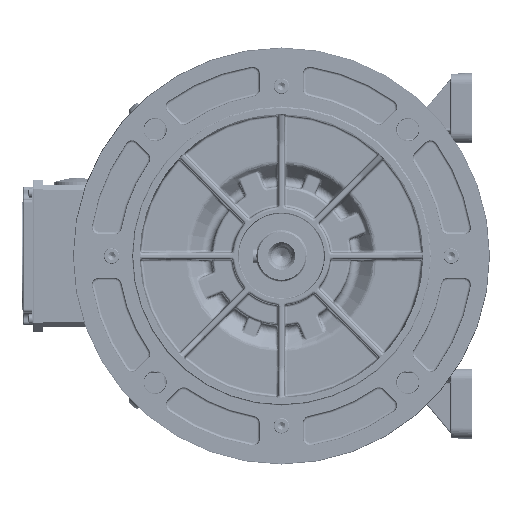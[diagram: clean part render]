
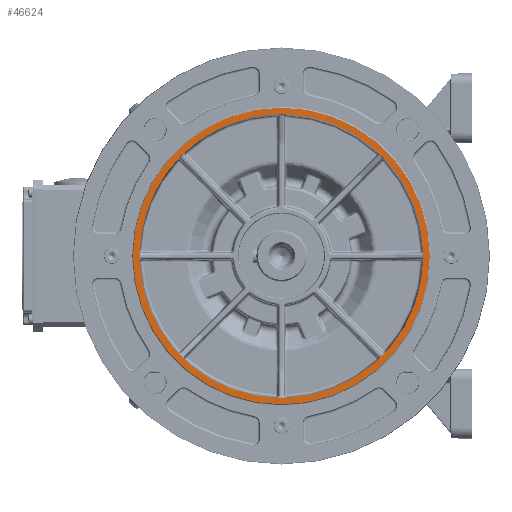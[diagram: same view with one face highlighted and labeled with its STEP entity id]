
A CAD part, left-side view. The second image highlights one B-rep face of the part: STEP entity #46624.
In plain terms, the highlighted planar face has unit normal (-1, 0, 0).
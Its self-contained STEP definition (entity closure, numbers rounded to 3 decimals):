
#46624=ADVANCED_FACE('',(#82818,#82819),#54829,.T.);
#54829=PLANE('',#256810);
#82818=FACE_BOUND('',#93283,.T.);
#82819=FACE_BOUND('',#93284,.T.);
#93283=EDGE_LOOP('',(#142183));
#93284=EDGE_LOOP('',(#142184));
#142183=ORIENTED_EDGE('',*,*,#212491,.T.);
#142184=ORIENTED_EDGE('',*,*,#213463,.F.);
#183296=VERTEX_POINT('',#443507);
#183868=VERTEX_POINT('',#450239);
#212491=EDGE_CURVE('',#183296,#183296,#234595,.T.);
#213463=EDGE_CURVE('',#183868,#183868,#234983,.T.);
#234595=CIRCLE('',#256093,124.5);
#234983=CIRCLE('',#256809,119.08);
#256093=AXIS2_PLACEMENT_3D('',#443506,#307055,#307056);
#256809=AXIS2_PLACEMENT_3D('',#450238,#308703,#308704);
#256810=AXIS2_PLACEMENT_3D('',#450240,#308705,#308706);
#307055=DIRECTION('',(-1.,0.,0.));
#307056=DIRECTION('',(0.,0.,1.));
#308703=DIRECTION('',(-1.,0.,0.));
#308704=DIRECTION('',(0.,0.,1.));
#308705=DIRECTION('',(-1.,0.,0.));
#308706=DIRECTION('',(0.,0.,1.));
#443506=CARTESIAN_POINT('',(-40.,117.,0.));
#443507=CARTESIAN_POINT('',(-40.,117.,124.5));
#450238=CARTESIAN_POINT('',(-40.,117.,0.));
#450239=CARTESIAN_POINT('',(-40.,117.,119.08));
#450240=CARTESIAN_POINT('',(-40.,-8.,0.));
